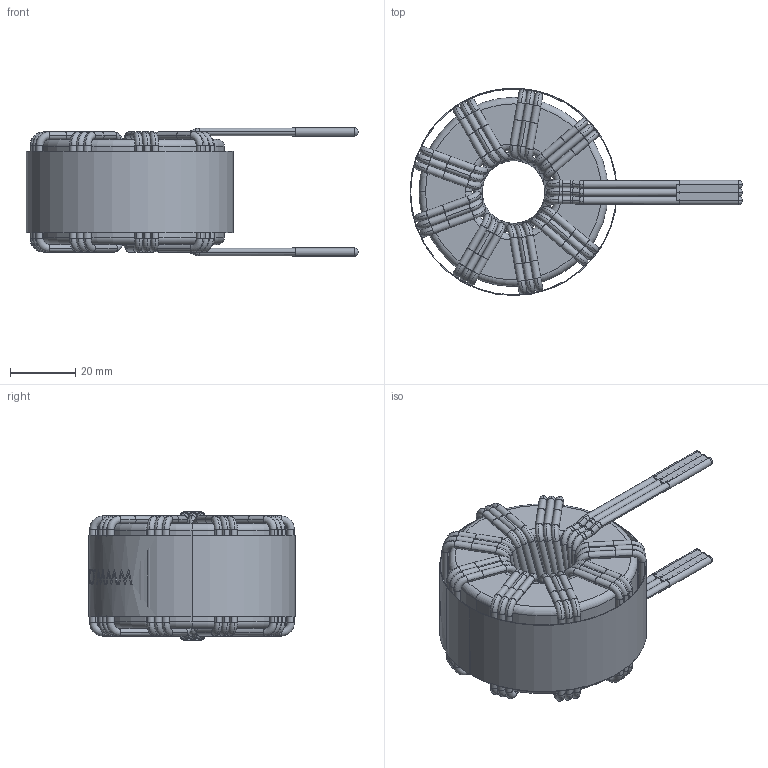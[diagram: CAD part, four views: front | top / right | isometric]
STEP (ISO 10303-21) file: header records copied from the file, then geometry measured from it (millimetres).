
FILE_DESCRIPTION (( 'STEP AP214' ), '1' );
FILE_NAME ('HF5712-550M-60AV.step', '2021-03-04T09:53:13', ( '' ), ( '' ), 'SwSTEP 2.0', 'SolidWorks 2015', '' );
FILE_SCHEMA (( 'AUTOMOTIVE_DESIGN' ));
Length unit declared in the file: millimetre
Products named in the file (5): EPOXY; WINDING; WRAPPER; CORE; HF5712-550M-60AV
Assembly tree (4 placements, depth 2):
  HF5712-550M-60AV
    CORE
    WINDING
    WRAPPER
    EPOXY
Bounding box: 101.81 x 63.54 x 39.33 mm (x, y, z)
Volume: 81522.2 mm3; surface area: 44943.2 mm2
Topology: 46 solids, 46 shells, 852 faces, 2188 edges, 1444 vertices
Faces by surface type: cylinder 344, torus 266, plane 139, bspline 103
Entity records: 45324 total; most frequent: CARTESIAN_POINT 15920, DIRECTION 4822, ORIENTED_EDGE 4376, AXIS2_PLACEMENT_3D 2224, EDGE_CURVE 2188, CIRCLE 1468, VERTEX_POINT 1444, EDGE_LOOP 872
